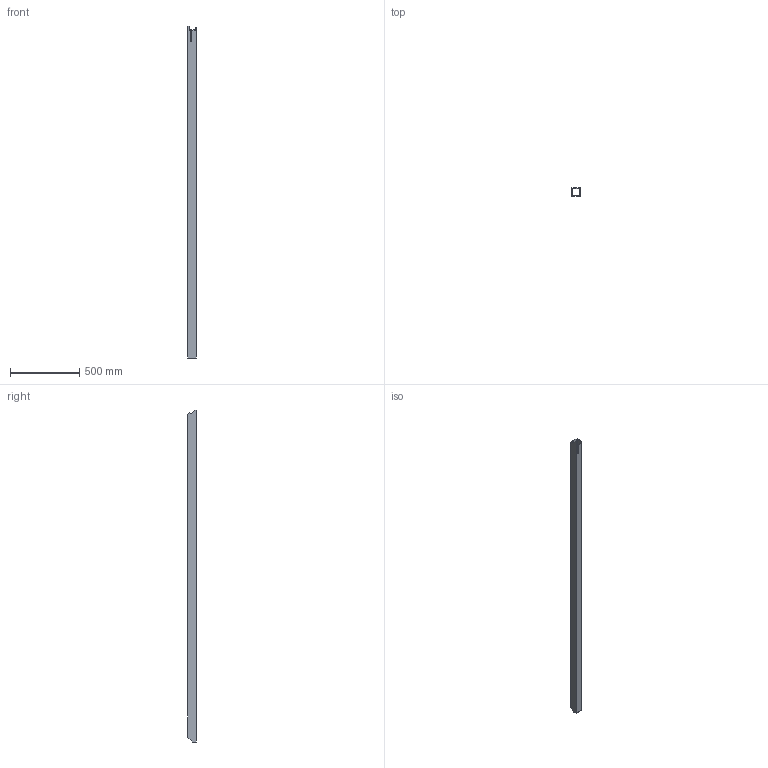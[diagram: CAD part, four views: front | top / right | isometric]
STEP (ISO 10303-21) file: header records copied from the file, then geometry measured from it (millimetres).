
FILE_DESCRIPTION(('Open CASCADE Model'),'2;1');
FILE_NAME('Open CASCADE Shape Model','2026-10-15T15:10:07',('Author'),( 'Open CASCADE'),'Open CASCADE STEP processor 8.0','Open CASCADE 8.0' ,'Unknown');
FILE_SCHEMA(('AUTOMOTIVE_DESIGN { 1 0 10303 214 1 1 1 1 }'));
Length unit declared in the file: millimetre
Products named in the file (1): SHS60x60x4_L2399437_P05_JUNTA_7 188
Bounding box: 60 x 60 x 2399.44 mm (x, y, z)
Volume: 2111697.5 mm3; surface area: 1059475.1 mm2
Topology: 1 solids, 1 shells, 32 faces, 96 edges, 64 vertices
Faces by surface type: plane 26, cylinder 6
Entity records: 2274 total; most frequent: CARTESIAN_POINT 559, DIRECTION 250, ORIENTED_EDGE 192, PCURVE 192, DEFINITIONAL_REPRESENTATION 192, LINE 150, VECTOR 150, B_SPLINE_CURVE_WITH_KNOTS 114
